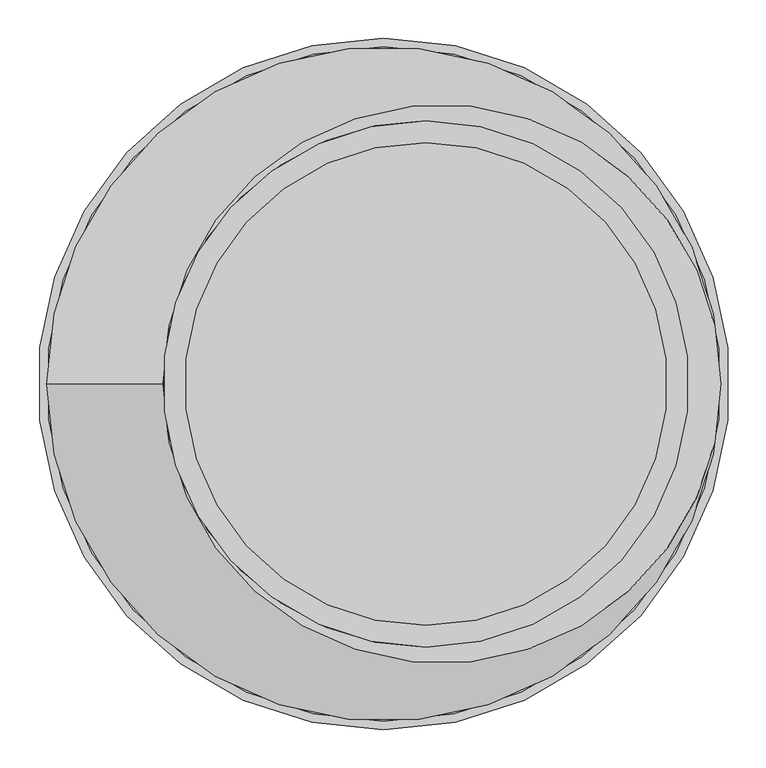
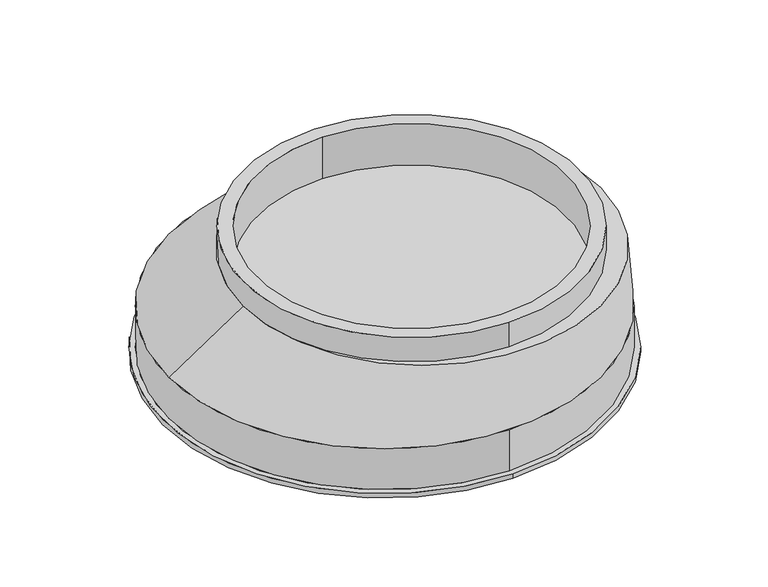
"""IFC4 building model written with IfcOpenShell, lengths in millimetres: valve geometry, Pipelife - Studnia PRO - Nasada redukcyjna z ząbkami do teleskopu 800 : 800/630 z ząbkami do teleskopu."""

from ifc_helpers import new_model, si_unit, frame, origin, place, context, project, spatial, polyline, circle_curve, source, transform, mapped, element, save
from ifc_brep_helpers import plane_surface, cylinder_surface, revolved_surface, spline_surface, advanced_brep


def valve_c10afcef(model_context):
    return source(origin(), model_context, "Body", "AdvancedBrep", [
        advanced_brep(
        [(443.5, 0.0, 200.0), (-290.5, 0.0, 200.0), (55.5, 346.0, 200.0), (55.5, -346.0, 200.0), (443.5, 0.0, 99.0), (-443.5, 0.0, 99.0), (55.5, 317.5, 163.0), (55.5, -317.5, 163.0), (55.5, 317.5, 253.0), (55.5, -317.5, 253.0), (55.5, 346.0, 253.0), (55.5, -346.0, 253.0)],
        [
            (0, 1, circle_curve(frame((76.5, 0.0, 200.0), z_axis=(0.0, 0.0, 1.0), x_axis=(-1.0, 0.0, 0.0)), 367.0)),
            (1, 2, circle_curve(frame((55.5, 0.0, 200.0), z_axis=(0.0, 0.0, -1.0), x_axis=(0.0, -1.0, 0.0)), 346.0)),
            (2, 3, circle_curve(frame((55.5, 0.0, 200.0), z_axis=(0.0, 0.0, -1.0), x_axis=(0.0, -1.0, 0.0)), 346.0)),
            (3, 1, circle_curve(frame((55.5, 0.0, 200.0), z_axis=(0.0, 0.0, -1.0), x_axis=(0.0, -1.0, 0.0)), 346.0)),
            (1, 0, circle_curve(frame((76.5, 0.0, 200.0), z_axis=(0.0, 0.0, 1.0), x_axis=(-1.0, 0.0, 0.0)), 367.0)),
            (4, 5, circle_curve(frame((0.0, 0.0, 99.0), z_axis=(0.0, 0.0, -1.0), x_axis=(-1.0, 0.0, 0.0)), 443.5)),
            (5, 4, circle_curve(frame((0.0, 0.0, 99.0), z_axis=(0.0, 0.0, -1.0), x_axis=(-1.0, 0.0, 0.0)), 443.5)),
            (0, 4),
            (5, 1),
            (6, 7, circle_curve(frame((55.5, 0.0, 163.0), z_axis=(0.0, 0.0, 1.0), x_axis=(0.0, -1.0, 0.0)), 317.5)),
            (7, 6, circle_curve(frame((55.5, 0.0, 163.0), z_axis=(0.0, 0.0, 1.0), x_axis=(0.0, -1.0, 0.0)), 317.5)),
            (6, 8),
            (8, 9, circle_curve(frame((55.5, 0.0, 253.0), z_axis=(0.0, 0.0, 1.0), x_axis=(0.0, -1.0, 0.0)), 317.5)),
            (9, 7),
            (9, 8, circle_curve(frame((55.5, 0.0, 253.0), z_axis=(0.0, 0.0, 1.0), x_axis=(0.0, -1.0, 0.0)), 317.5)),
            (10, 11, circle_curve(frame((55.5, 0.0, 253.0), z_axis=(0.0, 0.0, 1.0), x_axis=(0.0, -1.0, 0.0)), 346.0)),
            (11, 10, circle_curve(frame((55.5, 0.0, 253.0), z_axis=(0.0, 0.0, 1.0), x_axis=(0.0, -1.0, 0.0)), 346.0)),
            (10, 2),
            (3, 11),
        ],
        [
            plane_surface(frame((76.5, 0.0, 200.0), z_axis=(0.0, 0.0, 1.0), x_axis=(0.0, 1.0, 0.0))),
            plane_surface(frame((0.0, 0.0, 99.0), z_axis=(0.0, 0.0, -1.0), x_axis=(0.0, 1.0, 0.0))),
            spline_surface(2, 1, [[(443.5, 0.0, 99.0), (443.5, 0.0, 200.0)], [(443.5, 443.5, 99.0), (443.5, 367.0, 200.0)], [(0.0, 443.5, 99.0), (76.5, 367.0, 200.0)], [(-443.5, 443.5, 99.0), (-290.5, 367.0, 200.0)], [(-443.5, 0.0, 99.0), (-290.5, 0.0, 200.0)]], [3, 2, 3], [2, 2], [0.0, 1.0, 2.0], [0.0, 1.0], weights=[[1.0, 1.0], [0.7071067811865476, 0.7071067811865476], [1.0, 1.0], [0.7071067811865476, 0.7071067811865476], [1.0, 1.0]]),
            spline_surface(2, 1, [[(-443.5, 0.0, 99.0), (-290.5, 0.0, 200.0)], [(-443.5, -443.5, 99.0), (-290.5, -367.0, 200.0)], [(0.0, -443.5, 99.0), (76.5, -367.0, 200.0)], [(443.5, -443.5, 99.0), (443.5, -367.0, 200.0)], [(443.5, 0.0, 99.0), (443.5, 0.0, 200.0)]], [3, 2, 3], [2, 2], [0.0, 1.0, 2.0], [0.0, 1.0], weights=[[1.0, 1.0], [0.7071067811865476, 0.7071067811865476], [1.0, 1.0], [0.7071067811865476, 0.7071067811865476], [1.0, 1.0]]),
            plane_surface(frame((55.5, 0.0, 163.0), z_axis=(0.0, 0.0, 1.0), x_axis=(0.0, -1.0, 0.0))),
            revolved_surface(polyline([(55.5, -317.5, 253.0), (55.5, -317.5, 163.0)]), (55.5, 0.0, 253.0), (0.0, 0.0, 1.0)),
            plane_surface(frame((55.5, 0.0, 253.0), z_axis=(0.0, 0.0, 1.0), x_axis=(0.0, -1.0, 0.0))),
            cylinder_surface(frame((55.5, 0.0, 253.0), z_axis=(0.0, 0.0, 1.0), x_axis=(0.0, -1.0, 0.0)), 346.0),
        ],
        [
            (0, [[1, 2, 3, 4, 5]]),
            (1, [[6, 7]]),
            (2, [[-1, 8, -7, 9]]),
            (3, [[-5, -9, -6, -8]]),
            (4, [[10, 11]]),
            (5, [[-10, 12, 13, 14]]),
            (5, [[-11, -14, 15, -12]]),
            (6, [[16, 17], [-13, -15]]),
            (7, [[-16, 18, -2, -4, 19]]),
            (7, [[-17, -19, -3, -18]]),
        ],
    ),
        advanced_brep(
        [(0.0, 455.0, 10.0), (0.0, -455.0, 10.0), (0.0, -443.5, 10.0), (0.0, 443.5, 10.0), (0.0, 455.0, 0.0), (0.0, -455.0, 0.0), (0.0, 434.0, 0.0), (0.0, -434.0, 0.0), (0.0, 443.5, 99.0), (0.0, -443.5, 99.0), (0.0, 434.0, 90.0), (0.0, -434.0, 90.0)],
        [
            (0, 1, circle_curve(frame((0.0, 0.0, 10.0), z_axis=(0.0, 0.0, 1.0), x_axis=(0.0, -1.0, 0.0)), 455.0)),
            (1, 0, circle_curve(frame((0.0, 0.0, 10.0), z_axis=(0.0, 0.0, 1.0), x_axis=(0.0, -1.0, 0.0)), 455.0)),
            (2, 3, circle_curve(frame((0.0, 0.0, 10.0), z_axis=(0.0, 0.0, -1.0), x_axis=(0.0, -1.0, 0.0)), 443.5)),
            (3, 2, circle_curve(frame((0.0, 0.0, 10.0), z_axis=(0.0, 0.0, -1.0), x_axis=(0.0, -1.0, 0.0)), 443.5)),
            (4, 5, circle_curve(frame((0.0, 0.0, 0.0), z_axis=(0.0, 0.0, -1.0), x_axis=(0.0, -1.0, 0.0)), 455.0)),
            (5, 4, circle_curve(frame((0.0, 0.0, 0.0), z_axis=(0.0, 0.0, -1.0), x_axis=(0.0, -1.0, 0.0)), 455.0)),
            (6, 7, circle_curve(frame((0.0, 0.0, 0.0), z_axis=(0.0, 0.0, 1.0), x_axis=(0.0, -1.0, 0.0)), 434.0)),
            (7, 6, circle_curve(frame((0.0, 0.0, 0.0), z_axis=(0.0, 0.0, 1.0), x_axis=(0.0, -1.0, 0.0)), 434.0)),
            (0, 4),
            (5, 1),
            (8, 9, circle_curve(frame((0.0, 0.0, 99.0), z_axis=(0.0, 0.0, 1.0), x_axis=(0.0, -1.0, 0.0)), 443.5)),
            (9, 8, circle_curve(frame((0.0, 0.0, 99.0), z_axis=(0.0, 0.0, 1.0), x_axis=(0.0, -1.0, 0.0)), 443.5)),
            (8, 3),
            (2, 9),
            (10, 11, circle_curve(frame((0.0, 0.0, 90.0), z_axis=(0.0, 0.0, -1.0), x_axis=(0.0, -1.0, 0.0)), 434.0)),
            (11, 10, circle_curve(frame((0.0, 0.0, 90.0), z_axis=(0.0, 0.0, -1.0), x_axis=(0.0, -1.0, 0.0)), 434.0)),
            (11, 7),
            (6, 10),
        ],
        [
            plane_surface(frame((0.0, 0.0, 10.0), z_axis=(0.0, 0.0, 1.0), x_axis=(0.0, -1.0, 0.0))),
            plane_surface(frame((0.0, 0.0, 0.0), z_axis=(0.0, 0.0, -1.0), x_axis=(0.0, -1.0, 0.0))),
            cylinder_surface(frame((0.0, 0.0, 10.0), z_axis=(0.0, 0.0, 1.0), x_axis=(0.0, -1.0, 0.0)), 455.0),
            plane_surface(frame((0.0, 0.0, 99.0), z_axis=(0.0, 0.0, 1.0), x_axis=(0.0, -1.0, 0.0))),
            cylinder_surface(frame((0.0, 0.0, 99.0), z_axis=(0.0, 0.0, 1.0), x_axis=(0.0, -1.0, 0.0)), 443.5),
            plane_surface(frame((0.0, 0.0, 90.0), z_axis=(0.0, 0.0, -1.0), x_axis=(0.0, -1.0, 0.0))),
            revolved_surface(polyline([(0.0, -434.0, 90.0), (0.0, -434.0, 0.0)]), (0.0, 0.0, 90.0), (0.0, 0.0, 1.0)),
        ],
        [
            (0, [[1, 2], [3, 4]]),
            (1, [[5, 6], [7, 8]]),
            (2, [[-1, 9, -6, 10]]),
            (2, [[-2, -10, -5, -9]]),
            (3, [[11, 12]]),
            (4, [[-11, 13, -3, 14]]),
            (4, [[-12, -14, -4, -13]]),
            (5, [[15, 16]]),
            (6, [[-16, 17, -7, 18]]),
            (6, [[-15, -18, -8, -17]]),
        ],
    ),
    ])


if __name__ == "__main__":
    model = new_model("IFC4")
    model_context = context("Model", 3, world=origin())
    ifc_project = project(units=[si_unit("LENGTHUNIT", "METRE", prefix="MILLI")], contexts=[model_context])
    site = spatial("IfcSite", under=ifc_project)
    building = spatial("IfcBuilding", under=site)
    placement = place(None, origin())
    valve_shape = valve_c10afcef(model_context)
    element("IfcValve", 1, ObjectType="Pipelife - Studnia PRO - Nasada redukcyjna z ząbkami do teleskopu 800 : 800/630 z ząbkami do teleskopu", at=placement, inside=building, context=model_context, shape_type="MappedRepresentation", body=[
        mapped(valve_shape, transform((0.0, 0.0, 0.0), x_axis=(1.0, 0.0, 0.0), y_axis=(0.0, 1.0, 0.0), z_axis=(0.0, 0.0, 1.0))),
    ])
    save(model, "model.ifc")
